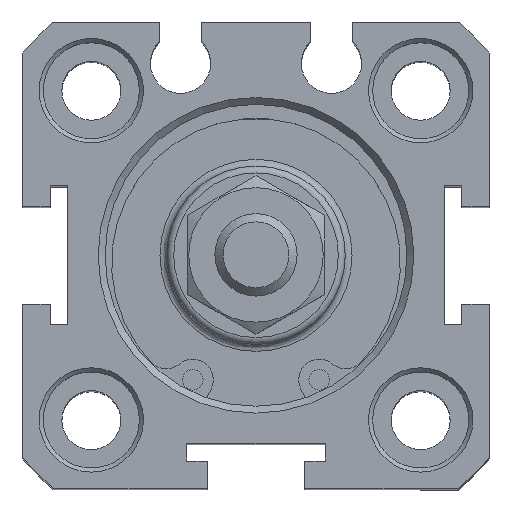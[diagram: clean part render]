
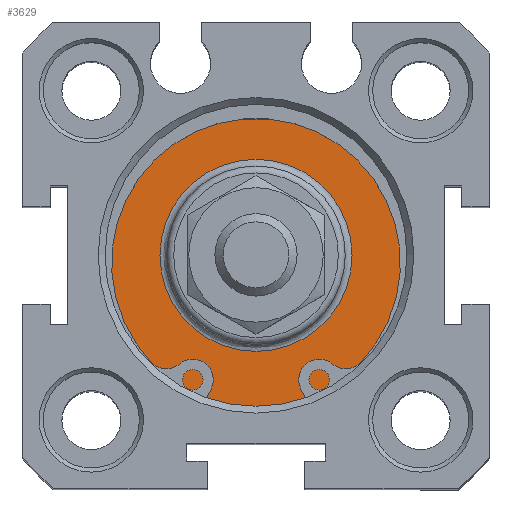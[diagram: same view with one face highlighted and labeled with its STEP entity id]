
A CAD part, top view. The second image highlights one B-rep face of the part: STEP entity #3629.
In plain terms, the highlighted planar face has unit normal (0, 0, 1).
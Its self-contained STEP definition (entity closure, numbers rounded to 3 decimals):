
#3567=CARTESIAN_POINT('',(0.957,6.522,56.8));
#3568=VERTEX_POINT('',#3567);
#3569=CARTESIAN_POINT('',(0.957,-0.478,56.8));
#3570=DIRECTION('',(0.0,0.0,1.0));
#3571=DIRECTION('',(0.0,-1.0,0.0));
#3572=AXIS2_PLACEMENT_3D('',#3569,#3570,#3571);
#3573=CIRCLE('',#3572,7.);
#3574=EDGE_CURVE('',#3568,#3568,#3573,.T.);
#3610=CARTESIAN_POINT('',(0.957,8.272,56.8));
#3611=DIRECTION('',(0.0,0.0,1.0));
#3612=DIRECTION('',(1.0,0.0,0.0));
#3613=AXIS2_PLACEMENT_3D('',#3610,#3611,#3612);
#3614=PLANE('',#3613);
#3615=CARTESIAN_POINT('',(0.957,10.522,56.8));
#3616=VERTEX_POINT('',#3615);
#3617=CARTESIAN_POINT('',(0.957,-0.478,56.8));
#3618=DIRECTION('',(0.0,0.0,1.0));
#3619=DIRECTION('',(0.0,1.0,0.0));
#3620=AXIS2_PLACEMENT_3D('',#3617,#3618,#3619);
#3621=CIRCLE('',#3620,11.);
#3622=EDGE_CURVE('',#3616,#3616,#3621,.T.);
#3623=ORIENTED_EDGE('',*,*,#3622,.T.);
#3624=EDGE_LOOP('',(#3623));
#3625=FACE_OUTER_BOUND('',#3624,.T.);
#3626=ORIENTED_EDGE('',*,*,#3574,.F.);
#3627=EDGE_LOOP('',(#3626));
#3628=FACE_BOUND('',#3627,.T.);
#3629=ADVANCED_FACE('',(#3625,#3628),#3614,.T.);
